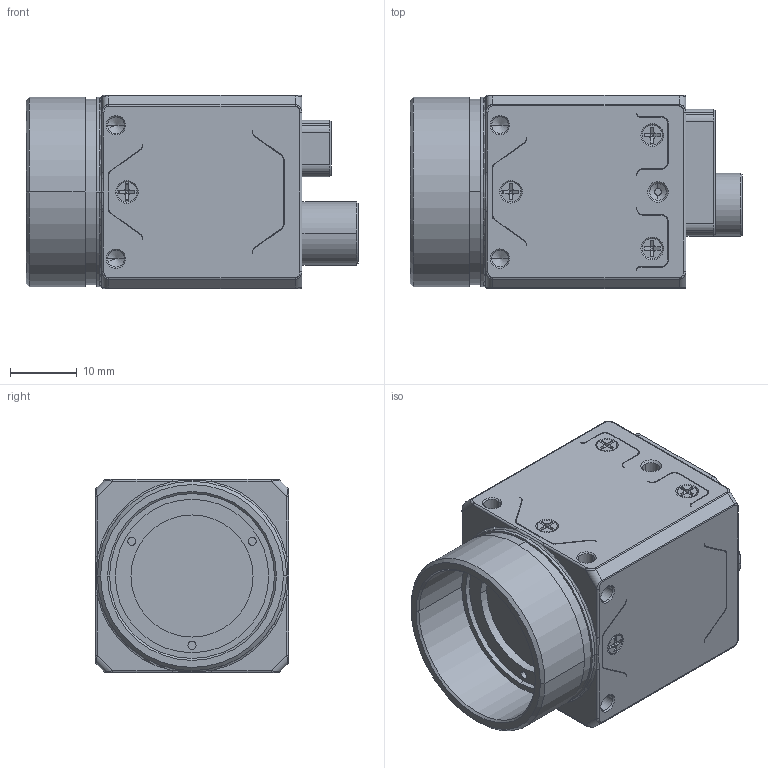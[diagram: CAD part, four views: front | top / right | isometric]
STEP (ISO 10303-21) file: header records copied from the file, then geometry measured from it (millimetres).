
FILE_DESCRIPTION((''),'2;1');
FILE_NAME('00-MV-CT050-60UM_ASM','2025-08-27T10:27:30',('sunli10'),(''),'CREO PARAMETRIC BY PTC INC, 2020044','CREO PARAMETRIC BY PTC INC, 2020044','');
FILE_SCHEMA(('CONFIG_CONTROL_DESIGN'));
Products named in the file (1): 00-MV-CT050-60UM_ASM
Bounding box: 49.78 x 29 x 29 mm (x, y, z)
Volume: 27031.7 mm3; surface area: 13623 mm2
Topology: 2 solids, 70 shells, 4622 faces, 12945 edges, 8389 vertices
Faces by surface type: plane 2701, cylinder 1465, cone 352, torus 52, bspline 50, sphere 2
Entity records: 157292 total; most frequent: CARTESIAN_POINT 37193, ORIENTED_EDGE 25782, DIRECTION 24590, EDGE_CURVE 12891, VERTEX_POINT 8387, VECTOR 8362, LINE 8362, AXIS2_PLACEMENT_3D 8114
